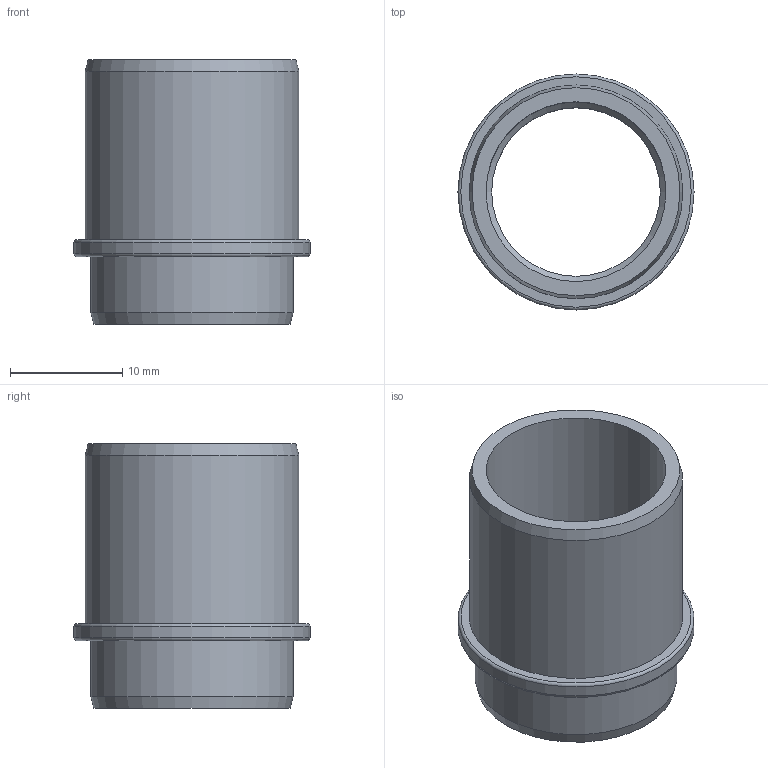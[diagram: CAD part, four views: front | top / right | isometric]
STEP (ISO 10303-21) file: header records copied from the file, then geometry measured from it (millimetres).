
FILE_DESCRIPTION(/* description */ (''),/* implementation_level */ '2;1');
FILE_NAME(/* name */ '/Users/valerian/Desktop/Blower To O2 Mixer Connector.step',/* time_stamp */ '2020-11-22T20:26:02+01:00',/* author */ (''),/* organization */ (''),/* preprocessor_version */ 'ST-DEVELOPER v18.1',/* originating_system */ 'Autodesk Translation Framework v9.3.0.1241',/* authorisation */ '');
FILE_SCHEMA (('AUTOMOTIVE_DESIGN { 1 0 10303 214 3 1 1 }'));
Length unit declared in the file: millimetre
Products named in the file (1): Blower To O2 Mixer Connector
Bounding box: 21 x 21 x 23.5 mm (x, y, z)
Volume: 2030.5 mm3; surface area: 2834.3 mm2
Topology: 1 solids, 1 shells, 14 faces, 24 edges, 14 vertices
Faces by surface type: cylinder 5, plane 4, cone 3, torus 2
Full cylindrical faces by diameter (mm): 15 x1, 16 x1, 18 x1, 19 x1, 21 x1
Entity records: 380 total; most frequent: DIRECTION 70, CARTESIAN_POINT 53, ORIENTED_EDGE 48, AXIS2_PLACEMENT_3D 31, EDGE_CURVE 24, EDGE_LOOP 18, CIRCLE 16, FACE_OUTER_BOUND 14
